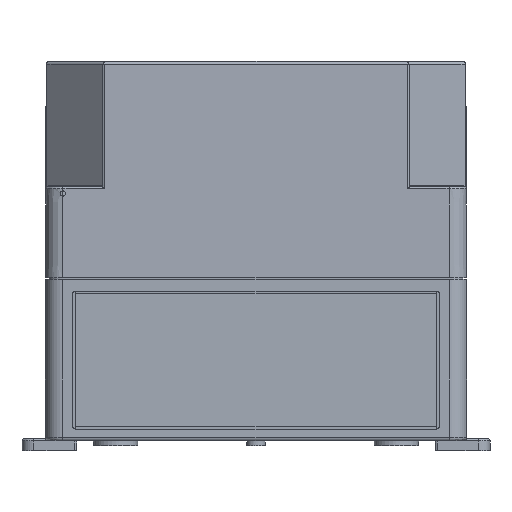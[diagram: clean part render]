
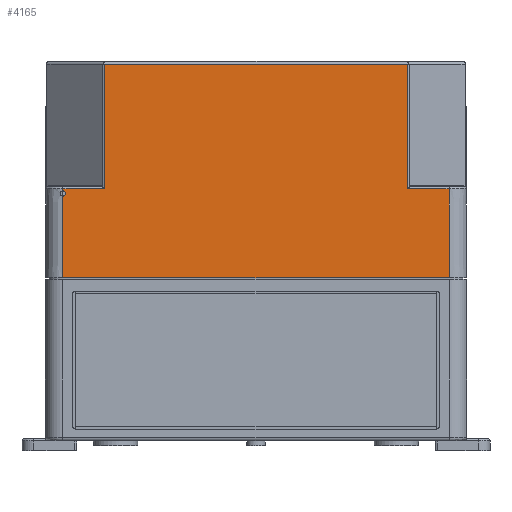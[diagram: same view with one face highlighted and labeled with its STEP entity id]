
A CAD part, left-side view. The second image highlights one B-rep face of the part: STEP entity #4165.
In plain terms, the highlighted planar face has unit normal (-1, 0, 0.004).
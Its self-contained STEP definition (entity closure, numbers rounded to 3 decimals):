
#162 = CARTESIAN_POINT ( 'NONE',  ( -91., 55., 0. ) ) ;
#417 = VERTEX_POINT ( 'NONE', #36424 ) ;
#1757 = VECTOR ( 'NONE', #111044, 1000. ) ;
#3248 = VECTOR ( 'NONE', #91554, 1000. ) ;
#4165 = ADVANCED_FACE ( 'NONE', ( #115637 ), #42199, .T. ) ;
#4914 = VECTOR ( 'NONE', #40128, 1000. ) ;
#5807 = EDGE_CURVE ( 'NONE', #58027, #75175, #120671, .T. ) ;
#6356 = VECTOR ( 'NONE', #107581, 1000. ) ;
#7239 = EDGE_LOOP ( 'NONE', ( #94010, #63243, #127573, #10538, #53335, #42576, #94912, #96342, #46168, #40067 ) ) ;
#9380 = LINE ( 'NONE', #21114, #45506 ) ;
#10538 = ORIENTED_EDGE ( 'NONE', *, *, #19859, .T. ) ;
#11969 = CARTESIAN_POINT ( 'NONE',  ( -91., 64.677, 0. ) ) ;
#12256 = CARTESIAN_POINT ( 'NONE',  ( -90.878, 80.3, 34.9 ) ) ;
#14126 = CARTESIAN_POINT ( 'NONE',  ( -91., -82.5, 0. ) ) ;
#14418 = EDGE_CURVE ( 'NONE', #20546, #18325, #78164, .T. ) ;
#18325 = VERTEX_POINT ( 'NONE', #107325 ) ;
#19859 = EDGE_CURVE ( 'NONE', #417, #20546, #119014, .T. ) ;
#20503 = CARTESIAN_POINT ( 'NONE',  ( -91., 82.5, 0. ) ) ;
#20546 = VERTEX_POINT ( 'NONE', #20503 ) ;
#21079 = VECTOR ( 'NONE', #66890, 1000. ) ;
#21114 = CARTESIAN_POINT ( 'NONE',  ( -90.867, 55., 38.003 ) ) ;
#21941 = CARTESIAN_POINT ( 'NONE',  ( -90.878, 82.5, 34.9 ) ) ;
#24920 = CARTESIAN_POINT ( 'NONE',  ( -91., 82.5, 0. ) ) ;
#25594 = EDGE_CURVE ( 'NONE', #58027, #417, #74011, .T. ) ;
#26907 = CARTESIAN_POINT ( 'NONE',  ( -90.867, -64.677, 38.003 ) ) ;
#27229 = CARTESIAN_POINT ( 'NONE',  ( -91., 55., 0. ) ) ;
#33918 = EDGE_CURVE ( 'NONE', #86311, #34142, #9380, .T. ) ;
#34142 = VERTEX_POINT ( 'NONE', #26907 ) ;
#34416 = CARTESIAN_POINT ( 'NONE',  ( -90.867, 64.677, 38.003 ) ) ;
#36424 = CARTESIAN_POINT ( 'NONE',  ( -90.878, 82.5, 34.9 ) ) ;
#36531 = LINE ( 'NONE', #57754, #43438 ) ;
#40067 = ORIENTED_EDGE ( 'NONE', *, *, #77810, .T. ) ;
#40128 = DIRECTION ( 'NONE',  ( 0., -1., 0. ) ) ;
#42199 = PLANE ( 'NONE',  #95889 ) ;
#42576 = ORIENTED_EDGE ( 'NONE', *, *, #53546, .T. ) ;
#43438 = VECTOR ( 'NONE', #56388, 1000. ) ;
#45506 = VECTOR ( 'NONE', #51336, 1000. ) ;
#46168 = ORIENTED_EDGE ( 'NONE', *, *, #104084, .F. ) ;
#50690 = VERTEX_POINT ( 'NONE', #78635 ) ;
#51336 = DIRECTION ( 'NONE',  ( 0., 1., 0. ) ) ;
#51604 = CARTESIAN_POINT ( 'NONE',  ( -91., -64.677, 0. ) ) ;
#53163 = CARTESIAN_POINT ( 'NONE',  ( -90.87, 82.5, 37.1 ) ) ;
#53335 = ORIENTED_EDGE ( 'NONE', *, *, #14418, .T. ) ;
#53537 = CARTESIAN_POINT ( 'NONE',  ( -90.87, 82.5, 37.1 ) ) ;
#53546 = EDGE_CURVE ( 'NONE', #18325, #86311, #54014, .T. ) ;
#54014 = LINE ( 'NONE', #14126, #6356 ) ;
#56388 = DIRECTION ( 'NONE',  ( 0., 1., 0. ) ) ;
#57319 = CARTESIAN_POINT ( 'NONE',  ( -90.867, 82.5, 38.003 ) ) ;
#57754 = CARTESIAN_POINT ( 'NONE',  ( -90.867, 55., 38.003 ) ) ;
#58027 = VERTEX_POINT ( 'NONE', #53163 ) ;
#58245 = VECTOR ( 'NONE', #62931, 1000. ) ;
#62931 = DIRECTION ( 'NONE',  ( -0.003, 0., -1. ) ) ;
#63243 = ORIENTED_EDGE ( 'NONE', *, *, #5807, .F. ) ;
#64561 = CARTESIAN_POINT ( 'NONE',  ( -90.87, 80.3, 37.1 ) ) ;
#66890 = DIRECTION ( 'NONE',  ( -0.003, 0., -1. ) ) ;
#68877 = LINE ( 'NONE', #51604, #3248 ) ;
#71109 = VERTEX_POINT ( 'NONE', #34416 ) ;
#71747 = CARTESIAN_POINT ( 'NONE',  ( -90.867, -82.5, 38.003 ) ) ;
#73952 = LINE ( 'NONE', #11969, #58245 ) ;
#74011 =( BOUNDED_CURVE ( )  B_SPLINE_CURVE ( 3, ( #53537, #64561, #12256, #21941 ),
 .UNSPECIFIED., .F., .F. ) 
 B_SPLINE_CURVE_WITH_KNOTS ( ( 4, 4 ),
 ( 0., 3.142 ),
 .UNSPECIFIED. ) 
 CURVE ( )  GEOMETRIC_REPRESENTATION_ITEM ( )  RATIONAL_B_SPLINE_CURVE ( ( 1., 0.333, 0.333, 1. ) ) 
 REPRESENTATION_ITEM ( '' )  );
#75175 = VERTEX_POINT ( 'NONE', #57319 ) ;
#77810 = EDGE_CURVE ( 'NONE', #85247, #71109, #73952, .T. ) ;
#78164 = LINE ( 'NONE', #27229, #110956 ) ;
#78635 = CARTESIAN_POINT ( 'NONE',  ( -90.682, -64.677, 91.005 ) ) ;
#79519 = CARTESIAN_POINT ( 'NONE',  ( -91., 82.5, 0. ) ) ;
#80035 = CARTESIAN_POINT ( 'NONE',  ( -90.682, 64.677, 91.005 ) ) ;
#84148 = DIRECTION ( 'NONE',  ( -0.003, 0., -1. ) ) ;
#85247 = VERTEX_POINT ( 'NONE', #80035 ) ;
#86311 = VERTEX_POINT ( 'NONE', #71747 ) ;
#91554 = DIRECTION ( 'NONE',  ( 0.003, 0., 1. ) ) ;
#94010 = ORIENTED_EDGE ( 'NONE', *, *, #113202, .T. ) ;
#94448 = DIRECTION ( 'NONE',  ( -1., 0., 0.003 ) ) ;
#94912 = ORIENTED_EDGE ( 'NONE', *, *, #33918, .T. ) ;
#95889 = AXIS2_PLACEMENT_3D ( 'NONE', #162, #94448, #84148 ) ;
#96342 = ORIENTED_EDGE ( 'NONE', *, *, #96590, .T. ) ;
#96590 = EDGE_CURVE ( 'NONE', #34142, #50690, #68877, .T. ) ;
#100102 = DIRECTION ( 'NONE',  ( 0., -1., 0. ) ) ;
#104084 = EDGE_CURVE ( 'NONE', #85247, #50690, #123895, .T. ) ;
#107325 = CARTESIAN_POINT ( 'NONE',  ( -91., -82.5, 0. ) ) ;
#107581 = DIRECTION ( 'NONE',  ( 0.003, 0., 1. ) ) ;
#110956 = VECTOR ( 'NONE', #100102, 1000. ) ;
#111044 = DIRECTION ( 'NONE',  ( 0.003, 0., 1. ) ) ;
#113202 = EDGE_CURVE ( 'NONE', #71109, #75175, #36531, .T. ) ;
#115637 = FACE_OUTER_BOUND ( 'NONE', #7239, .T. ) ;
#119014 = LINE ( 'NONE', #24920, #21079 ) ;
#120671 = LINE ( 'NONE', #79519, #1757 ) ;
#123895 = LINE ( 'NONE', #132190, #4914 ) ;
#127573 = ORIENTED_EDGE ( 'NONE', *, *, #25594, .T. ) ;
#132190 = CARTESIAN_POINT ( 'NONE',  ( -90.682, -150., 91.005 ) ) ;
